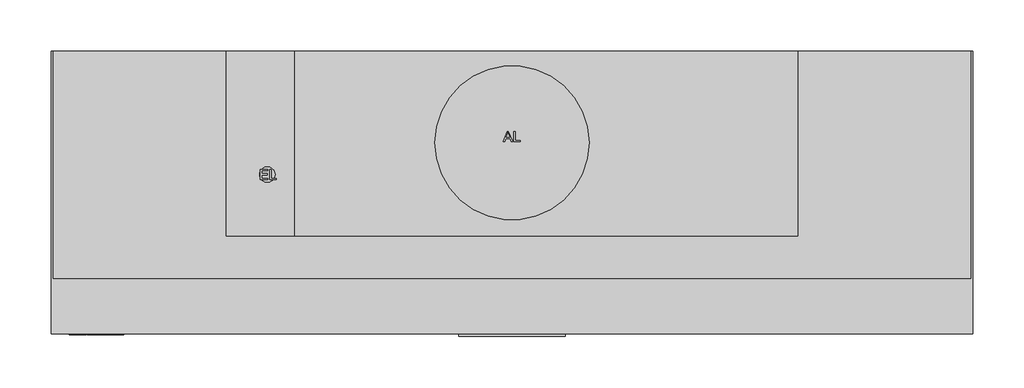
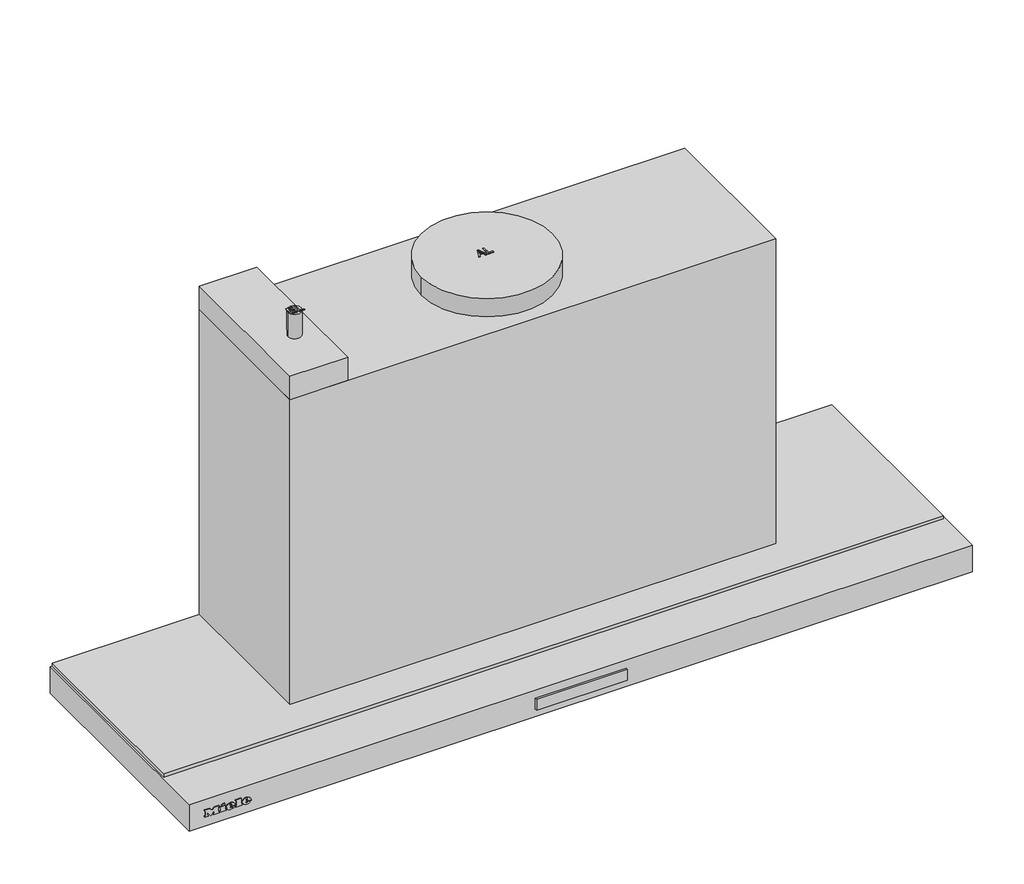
# Not in any storey: 1 proxy.
"""IFC4 building model written with IfcOpenShell, lengths in millimetres."""

from ifc_helpers import new_model, si_unit, origin, place, context, project, spatial, transform, mapped, element, save
from components import specialty_equipment_2c4c37f5

model = new_model("IFC4")

# Units and contexts
model_context = context("Model", 3, world=origin())
ifc_project = project(units=[si_unit("LENGTHUNIT", "METRE", prefix="MILLI")], contexts=[model_context])

# Site, building
site = spatial("IfcSite", under=ifc_project)
building = spatial("IfcBuilding", under=site)

# Proxy
placement = place(None, origin())
specialty_equipment_shape = specialty_equipment_2c4c37f5(model_context)
element("IfcBuildingElementProxy", 1, Name="12400950_D_DAS2922_EDST : 28S2922S_D_12400950_DAS2922_EDST", ObjectType="12400950_D_DAS2922_EDST : 28S2922S_D_12400950_DAS2922_EDST", at=placement, inside=building, context=model_context, shape_type="MappedRepresentation", body=[
    mapped(specialty_equipment_shape, transform((0.0, 0.0, 0.0), x_axis=(1.0, 0.0, 0.0), y_axis=(0.0, 1.0, 0.0), z_axis=(0.0, 0.0, 1.0))),
])

save(model, "model.ifc")
